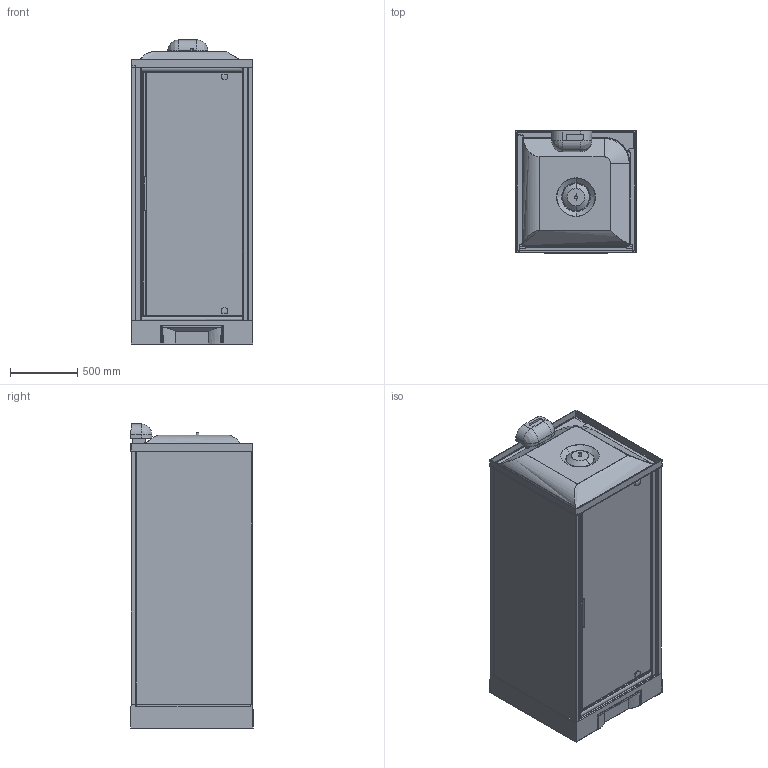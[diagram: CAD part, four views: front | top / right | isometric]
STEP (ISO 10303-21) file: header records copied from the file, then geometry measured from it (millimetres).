
FILE_DESCRIPTION(('STEP AP203'),'2;1');
FILE_NAME('NNH BI 90 T 19 N.stp','2015-09-04T14:57:24',(''),(''),'2014.1.117','THINKDESIGN','');
FILE_SCHEMA(('CONFIG_CONTROL_DESIGN'));
Bounding box: 904 x 907.51 x 2254.33 mm (x, y, z)
Volume: 263991652.7 mm3; surface area: 21042600.1 mm2
Topology: 41 solids, 41 shells, 836 faces, 1987 edges, 1246 vertices
Faces by surface type: bspline 453, plane 255, cylinder 128
Entity records: 109702 total; most frequent: CARTESIAN_POINT 93158, ORIENTED_EDGE 3926, DIRECTION 2321, EDGE_CURVE 1963, VERTEX_POINT 1242, EDGE_LOOP 869, VECTOR 851, LINE 851
